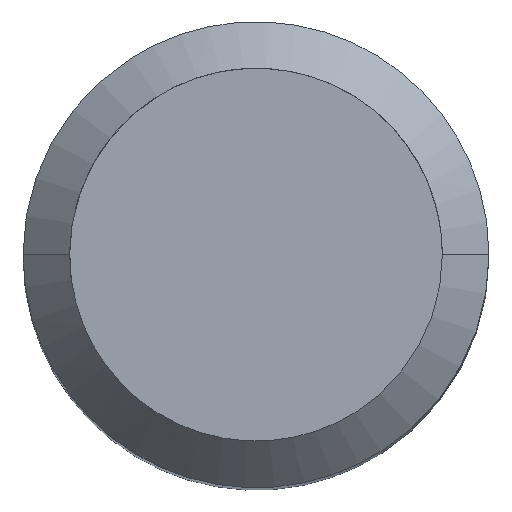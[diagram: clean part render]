
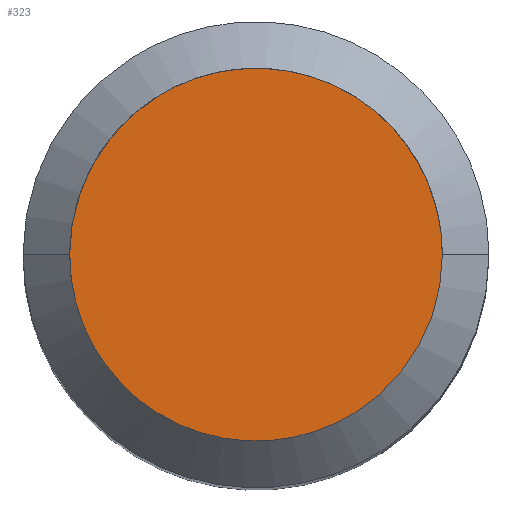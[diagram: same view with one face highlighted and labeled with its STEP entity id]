
A CAD part, top view. The second image highlights one B-rep face of the part: STEP entity #323.
In plain terms, the highlighted planar face has unit normal (0, 0, 1).
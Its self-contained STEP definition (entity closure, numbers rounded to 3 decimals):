
#28=PLANE($,#915);
#323=ADVANCED_FACE($,(#358),#28,.T.);
#358=FACE_OUTER_BOUND($,#395,.T.);
#395=EDGE_LOOP($,(#502));
#502=ORIENTED_EDGE($,*,*,#627,.F.);
#627=EDGE_CURVE($,#732,#732,#855,.T.);
#732=VERTEX_POINT($,#2069);
#855=B_SPLINE_CURVE_WITH_KNOTS($,3,(#2037,#2038,#2039,#2040,#2041,#2042,
#2043,#2044,#2045,#2046,#2047,#2048,#2049,#2050,#2051,#2052,#2053,#2054,
#2055,#2056,#2057,#2058,#2059,#2060,#2061,#2062,#2063,#2064,#2065,#2066,
#2067),.UNSPECIFIED.,.T.,.F.,(4,1,1,1,1,1,1,1,1,1,1,1,1,1,1,1,1,1,1,1,1,
1,1,1,1,1,1,1,4),(0.,1.331,2.742,3.968,
4.712,6.683,8.094,9.425,10.756,
12.167,13.393,14.137,16.107,17.519,
18.85,20.18,21.592,22.818,23.562,
25.532,26.943,28.274,29.605,31.016,
32.243,32.987,34.957,36.368,37.699),
.UNSPECIFIED.);
#915=AXIS2_PLACEMENT_3D($,#2068,#928,$);
#928=DIRECTION($,(0.,0.,1.));
#2037=CARTESIAN_POINT($,(6.,0.,48.));
#2038=CARTESIAN_POINT($,(6.,-0.444,48.));
#2039=CARTESIAN_POINT($,(5.898,-1.358,48.));
#2040=CARTESIAN_POINT($,(5.455,-2.614,48.));
#2041=CARTESIAN_POINT($,(4.853,-3.574,48.));
#2042=CARTESIAN_POINT($,(3.983,-4.561,48.));
#2043=CARTESIAN_POINT($,(2.849,-5.372,48.));
#2044=CARTESIAN_POINT($,(1.358,-5.898,48.));
#2045=CARTESIAN_POINT($,(0.,-6.049,48.));
#2046=CARTESIAN_POINT($,(-1.358,-5.898,48.));
#2047=CARTESIAN_POINT($,(-2.614,-5.455,48.));
#2048=CARTESIAN_POINT($,(-3.574,-4.854,48.));
#2049=CARTESIAN_POINT($,(-4.561,-3.983,48.));
#2050=CARTESIAN_POINT($,(-5.372,-2.849,48.));
#2051=CARTESIAN_POINT($,(-5.898,-1.358,48.));
#2052=CARTESIAN_POINT($,(-6.05,0.,48.));
#2053=CARTESIAN_POINT($,(-5.898,1.358,48.));
#2054=CARTESIAN_POINT($,(-5.455,2.614,48.));
#2055=CARTESIAN_POINT($,(-4.853,3.574,48.));
#2056=CARTESIAN_POINT($,(-3.983,4.561,48.));
#2057=CARTESIAN_POINT($,(-2.849,5.372,48.));
#2058=CARTESIAN_POINT($,(-1.358,5.898,48.));
#2059=CARTESIAN_POINT($,(0.,6.049,48.));
#2060=CARTESIAN_POINT($,(1.358,5.898,48.));
#2061=CARTESIAN_POINT($,(2.614,5.455,48.));
#2062=CARTESIAN_POINT($,(3.574,4.853,48.));
#2063=CARTESIAN_POINT($,(4.561,3.983,48.));
#2064=CARTESIAN_POINT($,(5.372,2.849,48.));
#2065=CARTESIAN_POINT($,(5.898,1.358,48.));
#2066=CARTESIAN_POINT($,(6.,0.444,48.));
#2067=CARTESIAN_POINT($,(6.,0.,48.));
#2068=CARTESIAN_POINT($,(-6.12,-6.12,48.));
#2069=CARTESIAN_POINT($,(6.,0.,48.));
